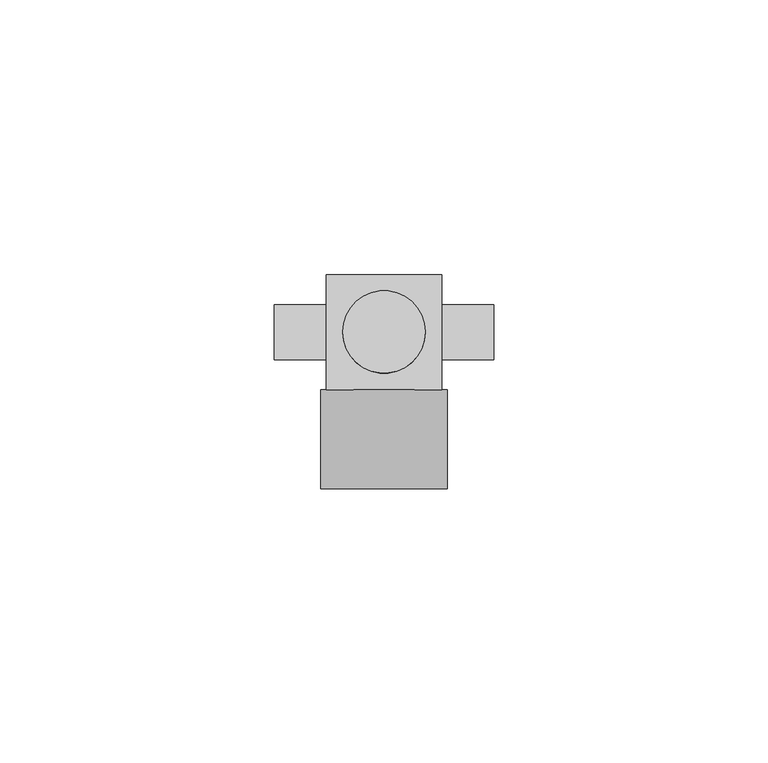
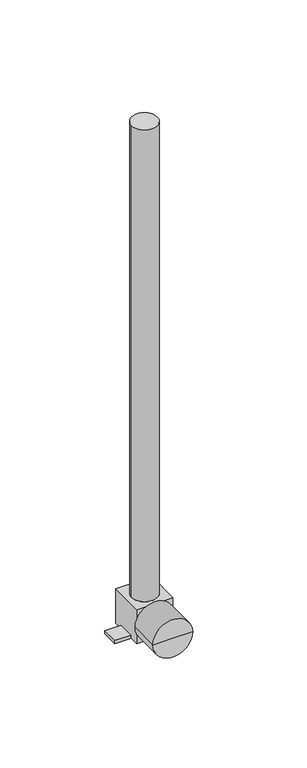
"""IFC4 building model written with IfcOpenShell, lengths in millimetres: pipe fitting geometry, KAN-therm Push kolanko z rurą Cu15 ze wspornikiem L=300 : KAN-therm Push kolanko z rurą Cu15 ze wspornikiem L=300."""

from ifc_helpers import new_model, si_unit, frame, origin, origin_with_axes, place, context, project, spatial, circle_curve, source, transform, mapped, element, save
from ifc_brep_helpers import plane_surface, cylinder_surface, advanced_brep


def pipe_fitting_182be3bf(model_context):
    return source(origin(), model_context, "Body", "AdvancedBrep", [
        advanced_brep(
        [(-11.5, -28.5, 0.0), (11.5, -28.5, 0.0), (0.0, -28.5, 0.0), (-11.5, -10.5, 0.0), (11.5, -10.5, 0.0), (0.0, -10.5, 0.0)],
        [
            (0, 1, circle_curve(frame((0.0, -28.5, 0.0), z_axis=(0.0, -1.0, 0.0), x_axis=(1.0000000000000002, 0.0, 0.0)), 11.5)),
            (1, 2),
            (2, 0),
            (1, 0, circle_curve(frame((0.0, -28.5, 0.0), z_axis=(0.0, -1.0, 0.0), x_axis=(1.0000000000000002, 0.0, 0.0)), 11.5)),
            (3, 4, circle_curve(frame((0.0, -10.5, 0.0), z_axis=(0.0, -1.0, 0.0), x_axis=(1.0000000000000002, 0.0, 0.0)), 11.5)),
            (4, 1),
            (0, 3),
            (4, 3, circle_curve(frame((0.0, -10.5, 0.0), z_axis=(0.0, -1.0, 0.0), x_axis=(1.0000000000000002, 0.0, 0.0)), 11.5)),
            (5, 4),
            (3, 5),
        ],
        [
            plane_surface(frame((0.0, -28.5, 0.0), z_axis=(0.0, -1.0, 0.0), x_axis=(1.0, 0.0, 0.0))),
            cylinder_surface(frame((0.0, -2005.5, 0.0), z_axis=(0.0, 1.0000000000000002, 0.0), x_axis=(1.0000000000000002, 0.0, 0.0)), 11.5),
            plane_surface(frame((0.0, -10.5, 0.0), z_axis=(0.0, 1.0, 0.0), x_axis=(1.0, 0.0, 0.0))),
        ],
        [
            (0, [[1, 2, 3]]),
            (0, [[4, -3, -2]]),
            (1, [[5, 6, -1, 7]]),
            (1, [[8, -7, -4, -6]]),
            (2, [[9, -5, 10]]),
            (2, [[-10, -8, -9]]),
        ],
    ),
        advanced_brep(
        [(10.5, -10.5, 10.5), (10.5, 10.5, 10.5), (-10.5, 10.5, 10.5), (-10.5, -10.5, 10.5), (7.5, 0.0, 10.5), (-7.5, 0.0, 10.5), (10.5, -10.5, -10.5), (-10.5, -10.5, -10.5), (-10.5, -5.0, -10.5), (-20.0, -5.0, -10.5), (-20.0, 5.0, -10.5), (-10.5, 5.0, -10.5), (-10.5, 10.5, -10.5), (10.5, 10.5, -10.5), (10.5, 5.0, -10.5), (20.0, 5.0, -10.5), (20.0, -5.0, -10.5), (10.5, -5.0, -10.5), (-7.5, 0.0, 300.0), (7.5, 0.0, 300.0), (10.5, -5.0, -8.5), (10.5, 5.0, -8.5), (-10.5, 5.0, -8.5), (-10.5, -5.0, -8.5), (20.0, -5.0, -8.5), (20.0, 5.0, -8.5), (-20.0, 5.0, -8.5), (-20.0, -5.0, -8.5)],
        [
            (0, 1),
            (1, 2),
            (2, 3),
            (3, 0),
            (4, 5, circle_curve(frame((0.0, 0.0, 10.5), z_axis=(0.0, 0.0, -1.0), x_axis=(1.0, 0.0, 0.0)), 7.5)),
            (5, 4, circle_curve(frame((0.0, 0.0, 10.5), z_axis=(0.0, 0.0, -1.0), x_axis=(1.0, 0.0, 0.0)), 7.5)),
            (6, 7),
            (7, 8),
            (8, 9),
            (9, 10),
            (10, 11),
            (11, 12),
            (12, 13),
            (13, 14),
            (14, 15),
            (15, 16),
            (16, 17),
            (17, 6),
            (18, 19, circle_curve(frame((0.0, 0.0, 300.0), z_axis=(0.0, 0.0, 1.0), x_axis=(1.0, 0.0, 0.0)), 7.5)),
            (19, 18, circle_curve(frame((0.0, 0.0, 300.0), z_axis=(0.0, 0.0, 1.0), x_axis=(1.0, 0.0, 0.0)), 7.5)),
            (18, 5),
            (4, 19),
            (0, 6),
            (17, 20),
            (20, 21),
            (21, 14),
            (13, 1),
            (12, 2),
            (11, 22),
            (22, 23),
            (23, 8),
            (7, 3),
            (24, 25),
            (25, 21),
            (20, 24),
            (26, 27),
            (27, 23),
            (22, 26),
            (27, 9),
            (16, 24),
            (15, 25),
            (10, 26),
        ],
        [
            plane_surface(frame((10.5, 10.5, 10.5), z_axis=(0.0, 0.0, 1.0), x_axis=(0.0, 1.0, 0.0))),
            plane_surface(frame((10.5, 10.5, -10.5), z_axis=(0.0, 0.0, -1.0), x_axis=(0.0, -1.0, 0.0))),
            plane_surface(frame((7.5, 0.0, 300.0), z_axis=(0.0, 0.0, 1.0), x_axis=(0.0, 1.0, 0.0))),
            cylinder_surface(origin_with_axes(), 7.5),
            plane_surface(frame((10.5, -10.5, 10.5), z_axis=(1.0, 0.0, 0.0), x_axis=(0.0, 0.0, -1.0))),
            plane_surface(frame((10.5, 10.5, 10.5), z_axis=(0.0, 1.0, 0.0), x_axis=(0.0, 0.0, -1.0))),
            plane_surface(frame((-10.5, 10.5, 10.5), z_axis=(-1.0, 0.0, 0.0), x_axis=(0.0, 0.0, -1.0))),
            plane_surface(frame((-10.5, -10.5, 10.5), z_axis=(0.0, -1.0, 0.0), x_axis=(0.0, 0.0, -1.0))),
            plane_surface(frame((2000.0, -5.0, -8.5), z_axis=(0.0, 0.0, 1.0), x_axis=(1.0, 0.0, 0.0))),
            plane_surface(frame((-20.0, -5.0, -8.5), z_axis=(0.0, -1.0, 0.0), x_axis=(0.0, 0.0, -1.0))),
            plane_surface(frame((20.0, -5.0, -8.5), z_axis=(1.0, 0.0, 0.0), x_axis=(0.0, 0.0, -1.0))),
            plane_surface(frame((20.0, 5.0, -8.5), z_axis=(0.0, 1.0, 0.0), x_axis=(0.0, 0.0, -1.0))),
            plane_surface(frame((-20.0, 5.0, -8.5), z_axis=(-1.0, 0.0, 0.0), x_axis=(0.0, 0.0, -1.0))),
        ],
        [
            (0, [[1, 2, 3, 4], [5, 6]]),
            (1, [[7, 8, 9, 10, 11, 12, 13, 14, 15, 16, 17, 18]]),
            (2, [[19, 20]]),
            (3, [[-19, 21, -5, 22]]),
            (3, [[-20, -22, -6, -21]]),
            (4, [[-1, 23, -18, 24, 25, 26, -14, 27]]),
            (5, [[-2, -27, -13, 28]]),
            (6, [[-3, -28, -12, 29, 30, 31, -8, 32]]),
            (7, [[-4, -32, -7, -23]]),
            (8, [[33, 34, -25, 35]]),
            (8, [[36, 37, -30, 38]]),
            (9, [[39, -9, -31, -37]]),
            (9, [[40, -35, -24, -17]]),
            (10, [[-33, -40, -16, 41]]),
            (11, [[-41, -15, -26, -34]]),
            (11, [[42, -38, -29, -11]]),
            (12, [[-36, -42, -10, -39]]),
        ],
    ),
    ])


if __name__ == "__main__":
    model = new_model("IFC4")
    model_context = context("Model", 3, world=origin())
    ifc_project = project(units=[si_unit("LENGTHUNIT", "METRE", prefix="MILLI")], contexts=[model_context])
    site = spatial("IfcSite", under=ifc_project)
    building = spatial("IfcBuilding", under=site)
    placement = place(None, origin())
    pipe_fitting_shape = pipe_fitting_182be3bf(model_context)
    element("IfcPipeFitting", 1, ObjectType="KAN-therm Push kolanko z rurą Cu15 ze wspornikiem L=300 : KAN-therm Push kolanko z rurą Cu15 ze wspornikiem L=300", at=placement, inside=building, context=model_context, shape_type="MappedRepresentation", body=[
        mapped(pipe_fitting_shape, transform((0.0, 0.0, 0.0), x_axis=(1.0, 0.0, 0.0), y_axis=(0.0, 1.0, 0.0), z_axis=(0.0, 0.0, 1.0))),
    ])
    save(model, "model.ifc")
